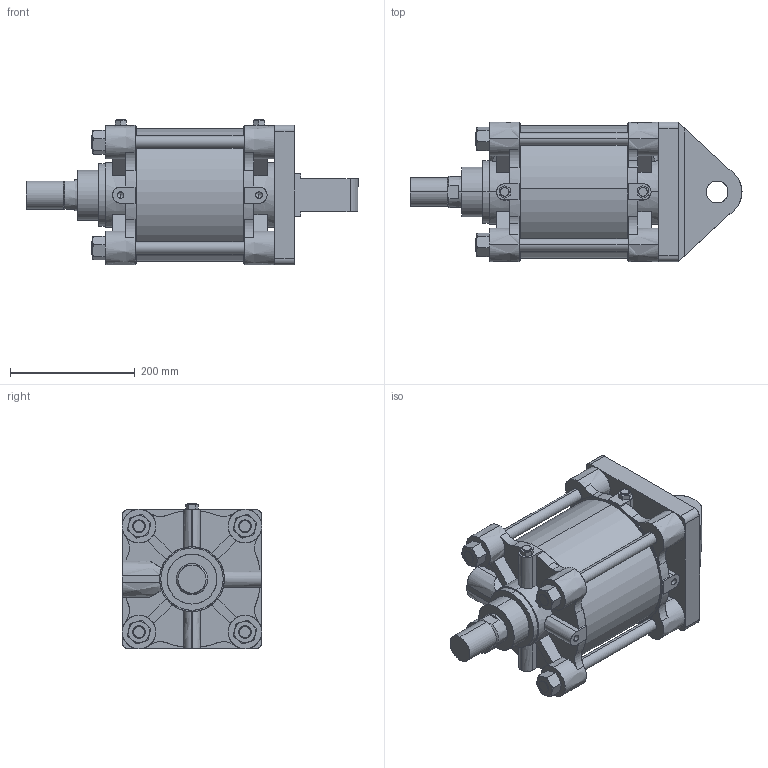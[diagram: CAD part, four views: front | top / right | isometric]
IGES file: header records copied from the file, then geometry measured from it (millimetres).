
Start section: SolidWorks IGES file using analytic representation for surfaces
Global section: file name: C:\Users\Toshiba\Desktop\A##2-200#-100-C.IGS; native system: SolidWorks 2014; preprocessor: SolidWorks 2014; author: Toshiba; date: 160331.150035; units: millimetre
Bounding box: 533 x 224 x 234 mm (x, y, z)
Surface area: 830730.3 mm2 (no closed solid volume)
Topology: 0 solids, 0 shells, 355 faces, 6950 edges, 6938 vertices
Faces by surface type: bspline 206, revolution 149
